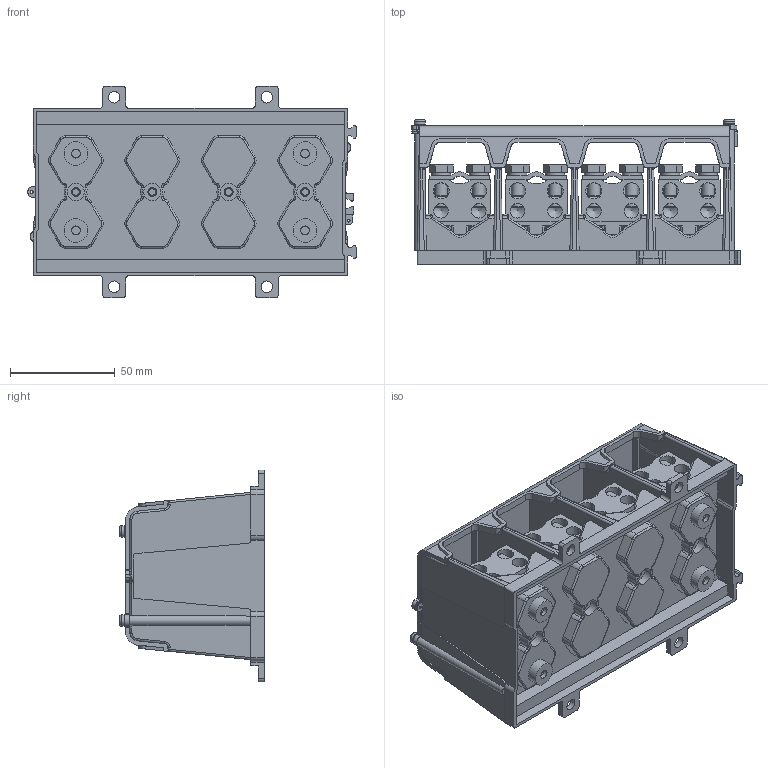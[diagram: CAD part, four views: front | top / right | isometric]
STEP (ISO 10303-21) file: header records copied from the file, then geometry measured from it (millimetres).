
FILE_DESCRIPTION(/* description */ ('Unknown'),/* implementation_level */ '2;1');
FILE_NAME(/* name */ 'DTS 4x35_4x8x16',/* time_stamp */ '2024-03-19T13:33:54+01:00',/* author */ ('Unknown'),/* organization */ ('Unknown'),/* preprocessor_version */ 'ST-DEVELOPER v18.102',/* originating_system */ 'Solid Edge',/* authorisation */ 'Unknown');
FILE_SCHEMA (('AUTOMOTIVE_DESIGN {1 0 10303 214 3 1 1}'));
Products named in the file (1): DTS 4x35_4x8x16
Bounding box: 156.85 x 69.2 x 101.2 mm (x, y, z)
Volume: 275011.2 mm3; surface area: 173411.5 mm2
Topology: 1 solids, 1 shells, 3277 faces, 9328 edges, 5743 vertices
Faces by surface type: plane 1516, cylinder 1145, torus 241, cone 192, sphere 96, bspline 87
Full cylindrical faces by diameter (mm): 1.4 x3, 3.242 x4, 4.2 x8, 4.9 x4, 4.917 x16, 5.4 x2, 5.5 x6, 6 x24, 6.4 x8, 7 x16, 7.7 x16, 8 x8, 8.2 x4, 11.3 x4
Entity records: 127169 total; most frequent: CARTESIAN_POINT 23198, ORIENTED_EDGE 16938, DIRECTION 16773, EDGE_CURVE 8469, AXIS2_PLACEMENT_3D 6025, VERTEX_POINT 5506, LINE 4723, VECTOR 4723
